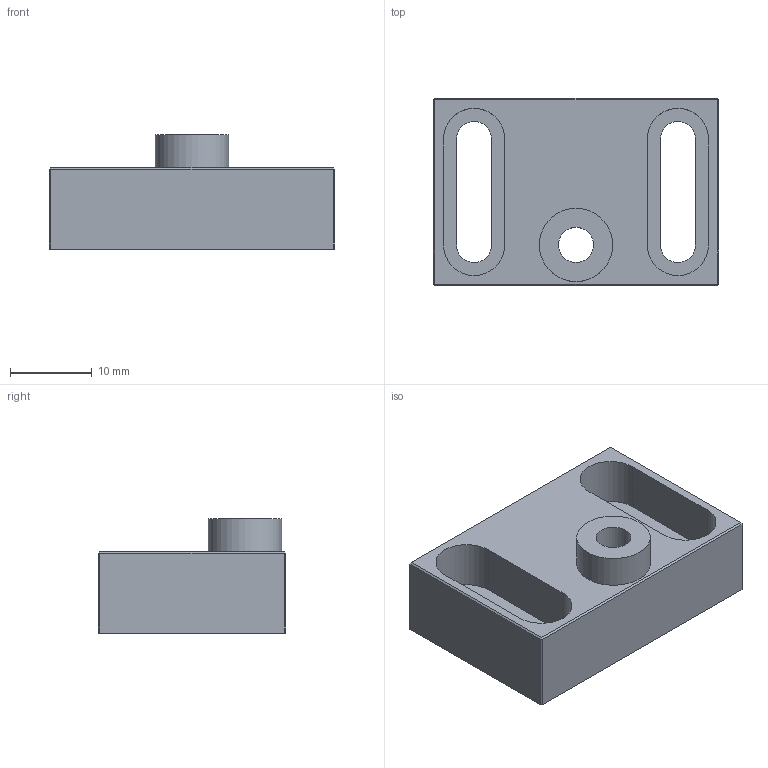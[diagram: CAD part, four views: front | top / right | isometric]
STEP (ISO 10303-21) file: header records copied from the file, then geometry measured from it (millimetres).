
FILE_DESCRIPTION(/* description */ (''),/* implementation_level */ '2;1');
FILE_NAME(/* name */ '',/* time_stamp */ '2025-12-08T17:27:54+08:00',/* author */ ('Q'),/* organization */ (''),/* preprocessor_version */ 'ST-DEVELOPER v20',/* originating_system */ 'Autodesk Inventor 2025',/* authorisation */ '');
FILE_SCHEMA (('AUTOMOTIVE_DESIGN { 1 0 10303 214 3 1 1 }'));
Length unit declared in the file: millimetre
Products named in the file (1): 双波片架底座
Bounding box: 35 x 23 x 14 mm (x, y, z)
Volume: 5597.3 mm3; surface area: 3734.3 mm2
Topology: 1 solids, 1 shells, 41 faces, 93 edges, 58 vertices
Faces by surface type: plane 30, cylinder 11
Full cylindrical faces by diameter (mm): 4.3 x1, 7.5 x1, 9 x1
Entity records: 1188 total; most frequent: DIRECTION 199, CARTESIAN_POINT 193, ORIENTED_EDGE 186, EDGE_CURVE 93, LINE 71, VECTOR 71, AXIS2_PLACEMENT_3D 64, VERTEX_POINT 58
